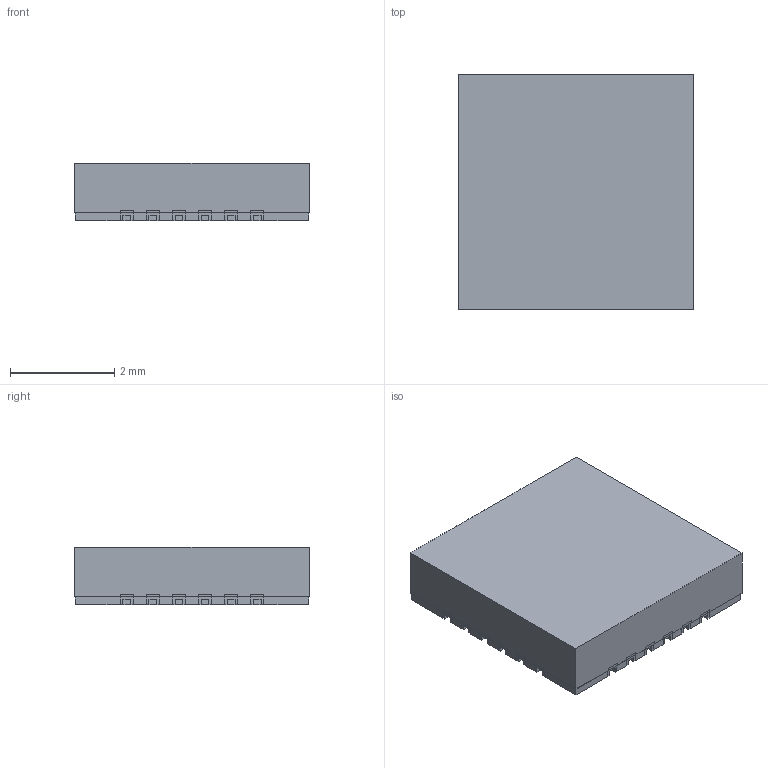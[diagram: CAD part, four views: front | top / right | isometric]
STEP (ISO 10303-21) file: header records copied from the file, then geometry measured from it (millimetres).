
FILE_DESCRIPTION (( 'STEP AP214' ), '1' );
FILE_NAME ('6in1 3D-STEP.STEP', '2021-02-24T01:52:47', ( 'ucfc500' ), ( 'パナソニック株式会社' ), 'SwSTEP 2.0', 'SolidWorks 2018', '' );
FILE_SCHEMA (( 'AUTOMOTIVE_DESIGN' ));
Length unit declared in the file: millimetre
Products named in the file (3): 6in1 3D-STEP; Lead frame; Mold
Assembly tree (2 placements, depth 2):
  6in1 3D-STEP
    Lead frame
    Mold
Bounding box: 4.5 x 4.5 x 1.1 mm (x, y, z)
Volume: 22.2 mm3; surface area: 110.5 mm2
Topology: 18 solids, 18 shells, 591 faces, 1704 edges, 1136 vertices
Faces by surface type: plane 591
Entity records: 22927 total; most frequent: CARTESIAN_POINT 3436, ORIENTED_EDGE 3408, DIRECTION 2896, EDGE_CURVE 1704, VECTOR 1704, LINE 1704, VERTEX_POINT 1136, AXIS2_PLACEMENT_3D 596
